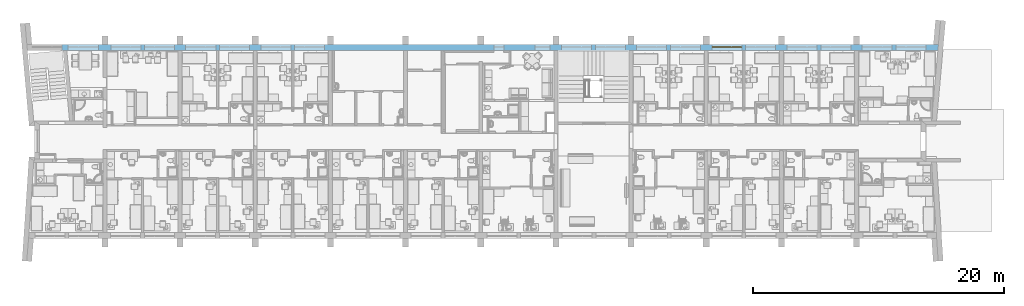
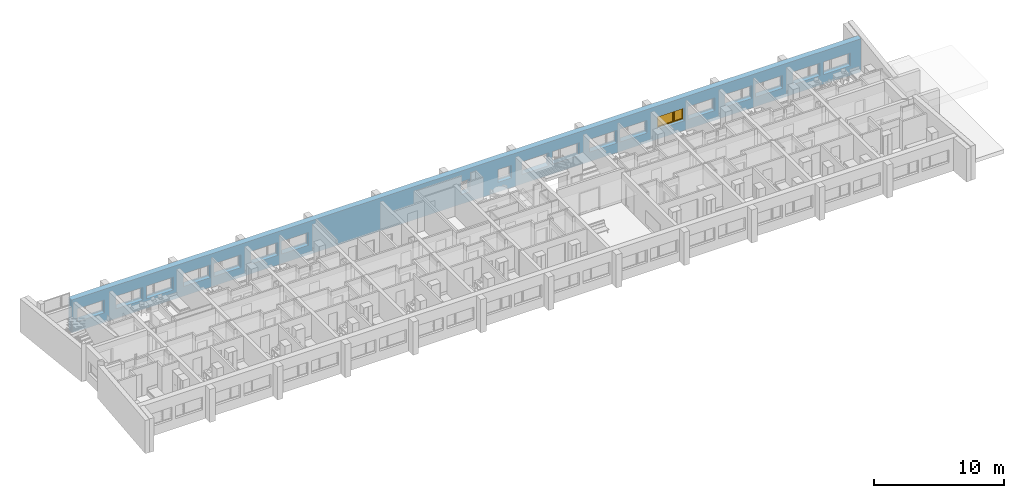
# One storey, part 28 of 172: 1 window, 19 openings, plus 1 element that does not belong to this part.
"""IFC2X3 building model written with IfcOpenShell, lengths in millimetres."""

import ifcopenshell
import ifcopenshell.guid

model = None  # the IFC model being written
_history = None  # IfcOwnerHistory: only IFC2X3 demands one
_inside = {}  # id of a spatial element -> (the spatial element, [elements in it])
_under = {}  # id of a project, library or spatial element -> (it, [spatial elements below it])
_declared = {}  # id of a project -> (the project, [libraries it declares])
_typed = {}  # id of a type object -> (the type object, [elements of that type])
_made_of = {}  # id of a material, layer set ... -> (it, [elements and type objects made of it])


def new_model(schema):
    """Start an empty IFC model of exactly this schema.

    Asked for "IFC4X3", IfcOpenShell would pick the latest addendum, in which some entities
    have other attributes; the version numbers below select the first issue.
    IFC2X3 requires an IfcOwnerHistory on every rooted entity: one is made here for all.
    """
    global model, _history
    if schema == "IFC4X3":
        model = ifcopenshell.file(schema_version=(4, 3, 0, 0))
    else:
        model = ifcopenshell.file(schema=schema)
    _inside.clear()
    _under.clear()
    _declared.clear()
    _typed.clear()
    _made_of.clear()
    _history = None
    if model.schema == "IFC2X3":
        org = make("IfcOrganization", Name="unknown")
        user = make(
            "IfcPersonAndOrganization",
            ThePerson=make("IfcPerson", FamilyName="unknown"),
            TheOrganization=org,
        )
        app = make(
            "IfcApplication",
            ApplicationDeveloper=org,
            Version="unknown",
            ApplicationFullName="unknown",
            ApplicationIdentifier="unknown",
        )
        _history = make(
            "IfcOwnerHistory",
            OwningUser=user,
            OwningApplication=app,
            ChangeAction="ADDED",
            CreationDate=0,
        )
    return model


def make(cls, **values):
    """One entity of the class cls with the attributes given. An attribute that is None is left unset."""
    return model.create_entity(
        cls, **{name: value for name, value in values.items() if value is not None}
    )


def entity(cls, *values):
    """Any entity or typed value of the class cls, its attributes in the order of the schema. None: left unset."""
    e = model.create_entity(cls)
    for i, value in enumerate(values):
        if value is not None:
            e[i] = value
    return e


def rooted(cls, **values):
    """An entity with a GlobalId (a new one), such as an element, a storey or a relation."""
    return make(cls, GlobalId=ifcopenshell.guid.new(), OwnerHistory=_history, **values)


def si_unit(unit_type, name, prefix=None):
    """IfcSIUnit, for example si_unit("LENGTHUNIT", "METRE", prefix="MILLI")."""
    return make("IfcSIUnit", UnitType=unit_type, Prefix=prefix, Name=name)


def converted_unit(unit_type, name, factor, base, dimensions=None, offset=None):
    """IfcConversionBasedUnit, such as the inch: factor (a typed value) times the base unit."""
    return make(
        "IfcConversionBasedUnit"
        if offset is None
        else "IfcConversionBasedUnitWithOffset",
        ConversionOffset=offset,
        Dimensions=None
        if dimensions is None
        else entity("IfcDimensionalExponents", *dimensions),
        UnitType=unit_type,
        Name=name,
        ConversionFactor=make(
            "IfcMeasureWithUnit", ValueComponent=factor, UnitComponent=base
        ),
    )


def money_unit(currency):
    """IfcMonetaryUnit."""
    return make("IfcMonetaryUnit", Currency=currency)


def assignment(units):
    """IfcUnitAssignment: the units of a project."""
    return None if units is None else make("IfcUnitAssignment", Units=units)


def point(xyz):
    """IfcCartesianPoint."""
    return None if xyz is None else make("IfcCartesianPoint", Coordinates=xyz)


def direction(xyz):
    """IfcDirection."""
    return None if xyz is None else make("IfcDirection", DirectionRatios=xyz)


def frame(location, z_axis=None, x_axis=None):
    """IfcAxis2Placement3D, a coordinate frame: its origin and axes. An axis left out is left unset."""
    return make(
        "IfcAxis2Placement3D",
        Location=point(location),
        Axis=direction(z_axis),
        RefDirection=direction(x_axis),
    )


def origin_with_axes():
    """The frame at (0, 0, 0) with the z axis (0, 0, 1) and the x axis (1, 0, 0) written out."""
    return frame((0.0, 0.0, 0.0), z_axis=(0.0, 0.0, 1.0), x_axis=(1.0, 0.0, 0.0))


def place(relative_to, where):
    """IfcLocalPlacement: puts the frame where relative to a parent placement (None: the world)."""
    return make(
        "IfcLocalPlacement", PlacementRelTo=relative_to, RelativePlacement=where
    )


def context(
    kind, dimensions, precision=None, world=None, true_north=None, identifier=None
):
    """IfcGeometricRepresentationContext, for example the 3D "Model" context."""
    return make(
        "IfcGeometricRepresentationContext",
        ContextIdentifier=identifier,
        ContextType=kind,
        CoordinateSpaceDimension=dimensions,
        Precision=precision,
        WorldCoordinateSystem=world,
        TrueNorth=true_north,
    )


def subcontext(parent, identifier, kind, view, scale=None):
    """IfcGeometricRepresentationSubContext, for example "Body" below "Model"."""
    return make(
        "IfcGeometricRepresentationSubContext",
        ContextIdentifier=identifier,
        ContextType=kind,
        ParentContext=parent,
        TargetScale=scale,
        TargetView=view,
    )


def project(units=None, contexts=None):
    """IfcProject with its units and contexts."""
    return rooted(
        "IfcProject",
        Name="project",
        RepresentationContexts=contexts,
        UnitsInContext=assignment(units),
    )


def spatial(cls, under=None, at=None, **own):
    """A site, building, storey or space (cls), placed at a placement, below another one or the project."""
    s = rooted(cls, ObjectPlacement=at, **own)
    if under is not None:
        _under.setdefault(under.id(), (under, []))[1].append(s)
    return s


def polyline(points):
    """IfcPolyline through the points."""
    return make("IfcPolyline", Points=[point(p) for p in points])


def outline(outer, holes=None, kind="AREA"):
    """IfcArbitraryClosedProfileDef: a profile drawn as a closed curve; with holes, ...WithVoids."""
    if holes is None:
        return make("IfcArbitraryClosedProfileDef", ProfileType=kind, OuterCurve=outer)
    return make(
        "IfcArbitraryProfileDefWithVoids",
        ProfileType=kind,
        OuterCurve=outer,
        InnerCurves=holes,
    )


def extrude(swept, where, along, depth):
    """IfcExtrudedAreaSolid: the profile swept, set in the frame where, extruded along a direction by depth."""
    return make(
        "IfcExtrudedAreaSolid",
        SweptArea=swept,
        Position=where,
        ExtrudedDirection=direction(along),
        Depth=depth,
    )


def faces_of(points, faces, orient=None, outer=None):
    """IfcFace entities. A face is a list of loops; a loop is a list of indices into points, from 0.

    orient and outer hold one flag for each loop. By default every Orientation is true, the
    first loop of a face is its IfcFaceOuterBound and the others are IfcFaceBound.
    """
    made = []
    for i, loops in enumerate(faces):
        bounds = []
        for j, loop in enumerate(loops):
            is_outer = j == 0 if outer is None else outer[i][j]
            bounds.append(
                make(
                    "IfcFaceOuterBound" if is_outer else "IfcFaceBound",
                    Bound=make("IfcPolyLoop", Polygon=[points[k] for k in loop]),
                    Orientation=True if orient is None else orient[i][j],
                )
            )
        made.append(make("IfcFace", Bounds=bounds))
    return made


def open_shell(faces, orient=None, outer=None):
    """The faces of one IfcOpenShell. surface_model builds it on its shared points."""
    return ("IfcOpenShell", faces, orient, outer)


def faceted_brep(points, faces, orient=None, outer=None, voids=None):
    """IfcFacetedBrep: a solid bounded by flat faces; with voids (closed shells), ...WithVoids."""
    shared = [point(p) for p in points]
    hull = make("IfcClosedShell", CfsFaces=faces_of(shared, faces, orient, outer))
    if voids is None:
        return make("IfcFacetedBrep", Outer=hull)
    return make(
        "IfcFacetedBrepWithVoids",
        Outer=hull,
        Voids=[
            make(cls, CfsFaces=faces_of(shared, fs, o, b)) for cls, fs, o, b in voids
        ],
    )


def surface_model(cls, points, shells):
    """IfcFaceBasedSurfaceModel or IfcShellBasedSurfaceModel (cls): surfaces that need not close."""
    shared = [point(p) for p in points]
    made = [make(c, CfsFaces=faces_of(shared, fs, o, b)) for c, fs, o, b in shells]
    if cls == "IfcFaceBasedSurfaceModel":
        return make(cls, FbsmFaces=made)
    return make(cls, SbsmBoundary=made)


def shape(context_of_items, identifier, shape_type, items):
    """IfcShapeRepresentation: the items that make up one representation, for example the "Body"."""
    return make(
        "IfcShapeRepresentation",
        ContextOfItems=context_of_items,
        RepresentationIdentifier=identifier,
        RepresentationType=shape_type,
        Items=items,
    )


def source(mapping_origin, context_of_items, identifier, shape_type, items):
    """IfcRepresentationMap: a shape defined once, which mapped items show again and again."""
    return make(
        "IfcRepresentationMap",
        MappingOrigin=mapping_origin,
        MappedRepresentation=shape(context_of_items, identifier, shape_type, items),
    )


def transform(
    local_origin,
    x_axis=None,
    y_axis=None,
    z_axis=None,
    scale=None,
    scale2=None,
    scale3=None,
    uniform=True,
):
    """IfcCartesianTransformationOperator3D, or its non-uniform kind. x_axis, y_axis, z_axis: its Axis1, 2, 3."""
    if uniform:
        return make(
            "IfcCartesianTransformationOperator3D",
            Axis1=direction(x_axis),
            Axis2=direction(y_axis),
            LocalOrigin=point(local_origin),
            Scale=scale,
            Axis3=direction(z_axis),
        )
    return make(
        "IfcCartesianTransformationOperator3DnonUniform",
        Axis1=direction(x_axis),
        Axis2=direction(y_axis),
        LocalOrigin=point(local_origin),
        Scale=scale,
        Axis3=direction(z_axis),
        Scale2=scale2,
        Scale3=scale3,
    )


def mapped(mapping_source, mapping_target):
    """IfcMappedItem: shows the shape of a source again, moved by a transform."""
    return make(
        "IfcMappedItem", MappingSource=mapping_source, MappingTarget=mapping_target
    )


def material(Name=None, Category=None):
    """IfcMaterial."""
    return make("IfcMaterial", Name=Name, Category=Category)


def material_list(materials):
    """IfcMaterialList."""
    return make("IfcMaterialList", Materials=materials)


def layer(
    of_material, thickness, ventilated=None, Name=None, Category=None, Priority=None
):
    """IfcMaterialLayer: one layer of a wall or slab, of a material (None: an air gap)."""
    return make(
        "IfcMaterialLayer",
        Material=of_material,
        LayerThickness=thickness,
        IsVentilated=ventilated,
        Name=Name,
        Category=Category,
        Priority=Priority,
    )


def layer_set(layers, Name=None):
    """IfcMaterialLayerSet."""
    return make("IfcMaterialLayerSet", MaterialLayers=layers, LayerSetName=Name)


def layer_usage(for_layer_set, set_direction, sense, offset, extent=None):
    """IfcMaterialLayerSetUsage: how a layer set lies in its element."""
    return make(
        "IfcMaterialLayerSetUsage",
        ForLayerSet=for_layer_set,
        LayerSetDirection=set_direction,
        DirectionSense=sense,
        OffsetFromReferenceLine=offset,
        ReferenceExtent=extent,
    )


def made_of(thing, what):
    """Note that an element or type object is made of a material, layer set ...; save() writes the relation."""
    if what is not None:
        _made_of.setdefault(what.id(), (what, []))[1].append(thing)
    return thing


def type_object(cls, material=None, **own):
    """A type object (cls), such as IfcWallType, which elements share."""
    return made_of(rooted(cls, **own), material)


def element(
    cls,
    number,
    at=None,
    inside=None,
    cuts=None,
    type_object=None,
    material=None,
    context=None,
    identifier="Body",
    shape_type=None,
    held_by="IfcProductDefinitionShape",
    body=None,
    shapes=None,
    **own,
):
    """One element of the class cls, such as IfcWall. Its Tag is "e" and its number.

    at: its placement. inside: the storey or other place that contains it. cuts: it is an
    opening in that element (IfcRelVoidsElement). A single representation is given by context,
    identifier, shape_type and body (its items); several are given by shapes. held_by: the class
    of the entity that holds the representations. save() writes the other relations.
    """
    e = rooted(cls, Tag="e%d" % number, ObjectPlacement=at, **own)
    if body is not None:
        shapes = [shape(context, identifier, shape_type, body)]
    if shapes is not None:
        e.Representation = make(held_by, Representations=shapes)
    if inside is not None:
        _inside.setdefault(inside.id(), (inside, []))[1].append(e)
    if cuts is not None:
        rooted(
            "IfcRelVoidsElement", RelatingBuildingElement=cuts, RelatedOpeningElement=e
        )
    if type_object is not None:
        _typed.setdefault(type_object.id(), (type_object, []))[1].append(e)
    return made_of(e, material)


def fill(opening, filler):
    """IfcRelFillsElement: the door or window that sits in an opening."""
    return rooted(
        "IfcRelFillsElement",
        RelatingOpeningElement=opening,
        RelatedBuildingElement=filler,
    )


def aggregate(whole, parts):
    """IfcRelAggregates: a whole, such as a stair, and the parts it consists of."""
    return rooted("IfcRelAggregates", RelatingObject=whole, RelatedObjects=parts)


def save(model, path):
    """Write the relations noted so far, then the file.

    IfcRelAggregates (storeys below a building ...), IfcRelContainedInSpatialStructure (elements
    in a storey), IfcRelDefinesByType, IfcRelAssociatesMaterial and IfcRelDeclares: one each for
    every whole, place, type object, material and project.
    """
    for whole, parts in _under.values():
        aggregate(whole, parts)
    for where, things in _inside.values():
        rooted(
            "IfcRelContainedInSpatialStructure",
            RelatedElements=things,
            RelatingStructure=where,
        )
    for kind, things in _typed.values():
        rooted("IfcRelDefinesByType", RelatedObjects=things, RelatingType=kind)
    for what, things in _made_of.values():
        rooted("IfcRelAssociatesMaterial", RelatedObjects=things, RelatingMaterial=what)
    for by, libraries in _declared.values():
        rooted("IfcRelDeclares", RelatingContext=by, RelatedDefinitions=libraries)
    model.write(path)


model = new_model("IFC2X3")

# Units and contexts
model_context = context("Model", 3, precision=1e-05, world=origin_with_axes(), true_north=direction((0.0, 1.0)))
body_context = subcontext(model_context, "Body", "Model", "MODEL_VIEW")
ifc_project = project(units=[si_unit("LENGTHUNIT", "METRE", prefix="MILLI"), si_unit("AREAUNIT", "SQUARE_METRE"), si_unit("VOLUMEUNIT", "CUBIC_METRE"), converted_unit("PLANEANGLEUNIT", "DEGREE", entity("IfcPlaneAngleMeasure", 0.0174532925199), si_unit("PLANEANGLEUNIT", "RADIAN"), dimensions=[0, 0, 0, 0, 0, 0, 0]), si_unit("SOLIDANGLEUNIT", "STERADIAN"), money_unit("USD"), converted_unit("TIMEUNIT", "Year", entity("IfcTimeMeasure", 31556926.0), si_unit("TIMEUNIT", "SECOND"), dimensions=[0, 0, 0, 0, 0, 0, 0]), si_unit("MASSUNIT", "GRAM"), si_unit("THERMODYNAMICTEMPERATUREUNIT", "DEGREE_CELSIUS"), si_unit("LUMINOUSINTENSITYUNIT", "LUMEN")], contexts=[model_context])

# Site, building, storey
site_placement = place(None, origin_with_axes())
site = spatial("IfcSite", under=ifc_project, at=site_placement, Name="Site", CompositionType="ELEMENT")
building_placement = place(site_placement, origin_with_axes())
building = spatial("IfcBuilding", under=site, at=building_placement, Name="Building", CompositionType="ELEMENT")
storey_placement = place(building_placement, frame((0.0, 0.0, 3200.0), z_axis=(0.0, 0.0, 1.0), x_axis=(1.0, 0.0, 0.0)))
storey = spatial("IfcBuildingStorey", under=building, at=storey_placement, Name="3KORRUS", CompositionType="ELEMENT", Elevation=3200.0)

# Wall, openings, window
ifc_material_1 = material(Name="Olemasolevad seinad tellis, uus viimistlus")
ifc_layer = layer(ifc_material_1, 500.0, ventilated="UNKNOWN")
ifc_layer_set = layer_set([ifc_layer], Name="Olemasolevad seinad tellis, uus viimistlus 500")
ifc_layer_usage = layer_usage(ifc_layer_set, "AXIS2", "POSITIVE", -100.0)
wall_type = type_object("IfcWallType", Name="Olemasolevad seinad tellis, uus viimistlus 500", PredefinedType="NOTDEFINED")
wall_placement = place(storey_placement, frame((-51569.3388124, -5039.6041088, 0.0), z_axis=(0.0, 0.0, 1.0), x_axis=(1.0, 0.0, 0.0)))
wall = element("IfcWallStandardCase", 1, at=wall_placement, inside=storey, type_object=wall_type, material=ifc_layer_usage, Name="VS1", ObjectType="VS1", context=body_context, shape_type="SweptSolid", body=[
    extrude(outline(polyline([(0.0, -100.0), (69914.7195482, -100.0), (69959.6995146, 400.0), (0.0, 400.0), (0.0, -100.0)])), origin_with_axes(), (0.0, 0.0, 1.0), 3100.0),
])
opening_1_placement = place(wall_placement, frame((34879.0421091, 0.0, 900.0), z_axis=(0.0, 0.0, 1.0), x_axis=(1.0, 0.0, 0.0)))
element("IfcOpeningElement", 2, at=opening_1_placement, cuts=wall, Name="WD - 001", context=body_context, shape_type="SweptSolid", body=[
    extrude(outline(polyline([(-400.0, 1200.0), (-400.0, 0.0), (400.0, 0.0), (400.0, 1200.0), (-400.0, 1200.0)])), frame((0.0, 200.0, 0.0), z_axis=(0.0, -1.0, 0.0), x_axis=(1.0, 0.0, 0.0)), (0.0, 0.0, 1.0), 800.0),
    extrude(outline(polyline([(-400.0, 0.0), (-400.0, -1200.0), (400.0, -1200.0), (400.0, 0.0), (-400.0, 0.0)])), frame((0.0, 200.0, 0.0), z_axis=(0.0, 1.0, 0.0), x_axis=(1.0, 0.0, 0.0)), (0.0, 0.0, 1.0), 700.0),
])
opening_2_placement = place(wall_placement, frame((38352.6323068, 0.0, 900.0), z_axis=(0.0, 0.0, 1.0), x_axis=(1.0, 0.0, 0.0)))
element("IfcOpeningElement", 3, at=opening_2_placement, cuts=wall, Name="A3", context=body_context, shape_type="SweptSolid", body=[
    extrude(outline(polyline([(-600.0, 1200.0), (-600.0, 0.0), (600.0, 0.0), (600.0, 1200.0), (-600.0, 1200.0)])), frame((0.0, 200.0, 0.0), z_axis=(0.0, -1.0, 0.0), x_axis=(1.0, 0.0, 0.0)), (0.0, 0.0, 1.0), 800.0),
    extrude(outline(polyline([(-600.0, 0.0), (-600.0, -1200.0), (600.0, -1200.0), (600.0, 0.0), (-600.0, 0.0)])), frame((0.0, 200.0, 0.0), z_axis=(0.0, 1.0, 0.0), x_axis=(1.0, 0.0, 0.0)), (0.0, 0.0, 1.0), 700.0),
])
opening_3_placement = place(wall_placement, frame((1700.0, 0.0, 900.0), z_axis=(0.0, 0.0, 1.0), x_axis=(1.0, 0.0, 0.0)))
element("IfcOpeningElement", 4, at=opening_3_placement, cuts=wall, Name="A1", context=body_context, shape_type="SweptSolid", body=[
    extrude(outline(polyline([(1200.0, 1200.0), (-1200.0, 1200.0), (-1200.0, 0.0), (1200.0, 0.0), (1200.0, 1200.0)])), frame((0.0, 200.0, 0.0), z_axis=(0.0, -1.0, 0.0), x_axis=(1.0, 0.0, 0.0)), (0.0, 0.0, 1.0), 800.0),
    extrude(outline(polyline([(1200.0, 0.0), (-1200.0, 0.0), (-1200.0, -1200.0), (1200.0, -1200.0), (1200.0, 0.0)])), frame((0.0, 200.0, 0.0), z_axis=(0.0, 1.0, 0.0), x_axis=(1.0, 0.0, 0.0)), (0.0, 0.0, 1.0), 700.0),
])
opening_4_placement = place(wall_placement, frame((7795.91085613, 0.0, 900.0), z_axis=(0.0, 0.0, 1.0), x_axis=(1.0, 0.0, 0.0)))
element("IfcOpeningElement", 5, at=opening_4_placement, cuts=wall, Name="A1", context=body_context, shape_type="SweptSolid", body=[
    extrude(outline(polyline([(1200.0, 1200.0), (-1200.0, 1200.0), (-1200.0, 0.0), (1200.0, 0.0), (1200.0, 1200.0)])), frame((0.0, 200.0, 0.0), z_axis=(0.0, -1.0, 0.0), x_axis=(1.0, 0.0, 0.0)), (0.0, 0.0, 1.0), 800.0),
    extrude(outline(polyline([(1200.0, 0.0), (-1200.0, 0.0), (-1200.0, -1200.0), (1200.0, -1200.0), (1200.0, 0.0)])), frame((0.0, 200.0, 0.0), z_axis=(0.0, 1.0, 0.0), x_axis=(1.0, 0.0, 0.0)), (0.0, 0.0, 1.0), 700.0),
])
opening_5_placement = place(wall_placement, frame((5095.91085613, 0.0, 900.0), z_axis=(0.0, 0.0, 1.0), x_axis=(1.0, 0.0, 0.0)))
element("IfcOpeningElement", 6, at=opening_5_placement, cuts=wall, Name="A2", context=body_context, shape_type="SweptSolid", body=[
    extrude(outline(polyline([(-1200.0, 1200.0), (-1200.0, 0.0), (1200.0, 0.0), (1200.0, 1200.0), (-1200.0, 1200.0)])), frame((0.0, 200.0, 0.0), z_axis=(0.0, -1.0, 0.0), x_axis=(1.0, 0.0, 0.0)), (0.0, 0.0, 1.0), 800.0),
    extrude(outline(polyline([(-1200.0, 0.0), (-1200.0, -1200.0), (1200.0, -1200.0), (1200.0, 0.0), (-1200.0, 0.0)])), frame((0.0, 200.0, 0.0), z_axis=(0.0, 1.0, 0.0), x_axis=(1.0, 0.0, 0.0)), (0.0, 0.0, 1.0), 700.0),
])
opening_6_placement = place(wall_placement, frame((13779.0421091, 0.0, 900.0), z_axis=(0.0, 0.0, 1.0), x_axis=(1.0, 0.0, 0.0)))
element("IfcOpeningElement", 7, at=opening_6_placement, cuts=wall, Name="A1", context=body_context, shape_type="SweptSolid", body=[
    extrude(outline(polyline([(1200.0, 1200.0), (-1200.0, 1200.0), (-1200.0, 0.0), (1200.0, 0.0), (1200.0, 1200.0)])), frame((0.0, 200.0, 0.0), z_axis=(0.0, -1.0, 0.0), x_axis=(1.0, 0.0, 0.0)), (0.0, 0.0, 1.0), 800.0),
    extrude(outline(polyline([(1200.0, 0.0), (-1200.0, 0.0), (-1200.0, -1200.0), (1200.0, -1200.0), (1200.0, 0.0)])), frame((0.0, 200.0, 0.0), z_axis=(0.0, 1.0, 0.0), x_axis=(1.0, 0.0, 0.0)), (0.0, 0.0, 1.0), 700.0),
])
opening_7_placement = place(wall_placement, frame((11079.0421091, 0.0, 900.0), z_axis=(0.0, 0.0, 1.0), x_axis=(1.0, 0.0, 0.0)))
element("IfcOpeningElement", 8, at=opening_7_placement, cuts=wall, Name="A2", context=body_context, shape_type="SweptSolid", body=[
    extrude(outline(polyline([(-1200.0, 1200.0), (-1200.0, 0.0), (1200.0, 0.0), (1200.0, 1200.0), (-1200.0, 1200.0)])), frame((0.0, 200.0, 0.0), z_axis=(0.0, -1.0, 0.0), x_axis=(1.0, 0.0, 0.0)), (0.0, 0.0, 1.0), 800.0),
    extrude(outline(polyline([(-1200.0, 0.0), (-1200.0, -1200.0), (1200.0, -1200.0), (1200.0, 0.0), (-1200.0, 0.0)])), frame((0.0, 200.0, 0.0), z_axis=(0.0, 1.0, 0.0), x_axis=(1.0, 0.0, 0.0)), (0.0, 0.0, 1.0), 700.0),
])
opening_8_placement = place(wall_placement, frame((43769.0421091, 0.0, 900.0), z_axis=(0.0, 0.0, 1.0), x_axis=(1.0, 0.0, 0.0)))
element("IfcOpeningElement", 9, at=opening_8_placement, cuts=wall, Name="A1", context=body_context, shape_type="SweptSolid", body=[
    extrude(outline(polyline([(1200.0, 1200.0), (-1200.0, 1200.0), (-1200.0, 0.0), (1200.0, 0.0), (1200.0, 1200.0)])), frame((0.0, 200.0, 0.0), z_axis=(0.0, -1.0, 0.0), x_axis=(1.0, 0.0, 0.0)), (0.0, 0.0, 1.0), 800.0),
    extrude(outline(polyline([(1200.0, 0.0), (-1200.0, 0.0), (-1200.0, -1200.0), (1200.0, -1200.0), (1200.0, 0.0)])), frame((0.0, 200.0, 0.0), z_axis=(0.0, 1.0, 0.0), x_axis=(1.0, 0.0, 0.0)), (0.0, 0.0, 1.0), 700.0),
])
opening_9_placement = place(wall_placement, frame((41069.0421091, 0.0, 900.0), z_axis=(0.0, 0.0, 1.0), x_axis=(1.0, 0.0, 0.0)))
element("IfcOpeningElement", 10, at=opening_9_placement, cuts=wall, Name="A2", context=body_context, shape_type="SweptSolid", body=[
    extrude(outline(polyline([(-1200.0, 1200.0), (-1200.0, 0.0), (1200.0, 0.0), (1200.0, 1200.0), (-1200.0, 1200.0)])), frame((0.0, 200.0, 0.0), z_axis=(0.0, -1.0, 0.0), x_axis=(1.0, 0.0, 0.0)), (0.0, 0.0, 1.0), 800.0),
    extrude(outline(polyline([(-1200.0, 0.0), (-1200.0, -1200.0), (1200.0, -1200.0), (1200.0, 0.0), (-1200.0, 0.0)])), frame((0.0, 200.0, 0.0), z_axis=(0.0, 1.0, 0.0), x_axis=(1.0, 0.0, 0.0)), (0.0, 0.0, 1.0), 700.0),
])
opening_10_placement = place(wall_placement, frame((49769.0421091, 0.0, 900.0), z_axis=(0.0, 0.0, 1.0), x_axis=(1.0, 0.0, 0.0)))
element("IfcOpeningElement", 11, at=opening_10_placement, cuts=wall, Name="A1", context=body_context, shape_type="SweptSolid", body=[
    extrude(outline(polyline([(1200.0, 1200.0), (-1200.0, 1200.0), (-1200.0, 0.0), (1200.0, 0.0), (1200.0, 1200.0)])), frame((0.0, 200.0, 0.0), z_axis=(0.0, -1.0, 0.0), x_axis=(1.0, 0.0, 0.0)), (0.0, 0.0, 1.0), 800.0),
    extrude(outline(polyline([(1200.0, 0.0), (-1200.0, 0.0), (-1200.0, -1200.0), (1200.0, -1200.0), (1200.0, 0.0)])), frame((0.0, 200.0, 0.0), z_axis=(0.0, 1.0, 0.0), x_axis=(1.0, 0.0, 0.0)), (0.0, 0.0, 1.0), 700.0),
])
opening_11_placement = place(wall_placement, frame((47069.0421091, 0.0, 900.0), z_axis=(0.0, 0.0, 1.0), x_axis=(1.0, 0.0, 0.0)))
element("IfcOpeningElement", 12, at=opening_11_placement, cuts=wall, Name="A2", context=body_context, shape_type="SweptSolid", body=[
    extrude(outline(polyline([(-1200.0, 1200.0), (-1200.0, 0.0), (1200.0, 0.0), (1200.0, 1200.0), (-1200.0, 1200.0)])), frame((0.0, 200.0, 0.0), z_axis=(0.0, -1.0, 0.0), x_axis=(1.0, 0.0, 0.0)), (0.0, 0.0, 1.0), 800.0),
    extrude(outline(polyline([(-1200.0, 0.0), (-1200.0, -1200.0), (1200.0, -1200.0), (1200.0, 0.0), (-1200.0, 0.0)])), frame((0.0, 200.0, 0.0), z_axis=(0.0, 1.0, 0.0), x_axis=(1.0, 0.0, 0.0)), (0.0, 0.0, 1.0), 700.0),
])
opening_12_placement = place(wall_placement, frame((55769.0421091, 0.0, 900.0), z_axis=(0.0, 0.0, 1.0), x_axis=(1.0, 0.0, 0.0)))
element("IfcOpeningElement", 13, at=opening_12_placement, cuts=wall, Name="A1", context=body_context, shape_type="SweptSolid", body=[
    extrude(outline(polyline([(1200.0, 1200.0), (-1200.0, 1200.0), (-1200.0, 0.0), (1200.0, 0.0), (1200.0, 1200.0)])), frame((0.0, 200.0, 0.0), z_axis=(0.0, -1.0, 0.0), x_axis=(1.0, 0.0, 0.0)), (0.0, 0.0, 1.0), 800.0),
    extrude(outline(polyline([(1200.0, 0.0), (-1200.0, 0.0), (-1200.0, -1200.0), (1200.0, -1200.0), (1200.0, 0.0)])), frame((0.0, 200.0, 0.0), z_axis=(0.0, 1.0, 0.0), x_axis=(1.0, 0.0, 0.0)), (0.0, 0.0, 1.0), 700.0),
])
opening_13_placement = place(wall_placement, frame((53069.0421091, 0.0, 900.0), z_axis=(0.0, 0.0, 1.0), x_axis=(1.0, 0.0, 0.0)))
opening_13 = element("IfcOpeningElement", 14, at=opening_13_placement, cuts=wall, Name="A2", context=body_context, shape_type="SweptSolid", body=[
    extrude(outline(polyline([(-1200.0, 1200.0), (-1200.0, 0.0), (1200.0, 0.0), (1200.0, 1200.0), (-1200.0, 1200.0)])), frame((0.0, 200.0, 0.0), z_axis=(0.0, -1.0, 0.0), x_axis=(1.0, 0.0, 0.0)), (0.0, 0.0, 1.0), 800.0),
    extrude(outline(polyline([(-1200.0, 0.0), (-1200.0, -1200.0), (1200.0, -1200.0), (1200.0, 0.0), (-1200.0, 0.0)])), frame((0.0, 200.0, 0.0), z_axis=(0.0, 1.0, 0.0), x_axis=(1.0, 0.0, 0.0)), (0.0, 0.0, 1.0), 700.0),
])
opening_14_placement = place(wall_placement, frame((61769.0421091, 0.0, 900.0), z_axis=(0.0, 0.0, 1.0), x_axis=(1.0, 0.0, 0.0)))
element("IfcOpeningElement", 15, at=opening_14_placement, cuts=wall, Name="A1", context=body_context, shape_type="SweptSolid", body=[
    extrude(outline(polyline([(1200.0, 1200.0), (-1200.0, 1200.0), (-1200.0, 0.0), (1200.0, 0.0), (1200.0, 1200.0)])), frame((0.0, 200.0, 0.0), z_axis=(0.0, -1.0, 0.0), x_axis=(1.0, 0.0, 0.0)), (0.0, 0.0, 1.0), 800.0),
    extrude(outline(polyline([(1200.0, 0.0), (-1200.0, 0.0), (-1200.0, -1200.0), (1200.0, -1200.0), (1200.0, 0.0)])), frame((0.0, 200.0, 0.0), z_axis=(0.0, 1.0, 0.0), x_axis=(1.0, 0.0, 0.0)), (0.0, 0.0, 1.0), 700.0),
])
opening_15_placement = place(wall_placement, frame((59069.0421091, 0.0, 900.0), z_axis=(0.0, 0.0, 1.0), x_axis=(1.0, 0.0, 0.0)))
element("IfcOpeningElement", 16, at=opening_15_placement, cuts=wall, Name="A2", context=body_context, shape_type="SweptSolid", body=[
    extrude(outline(polyline([(-1200.0, 1200.0), (-1200.0, 0.0), (1200.0, 0.0), (1200.0, 1200.0), (-1200.0, 1200.0)])), frame((0.0, 200.0, 0.0), z_axis=(0.0, -1.0, 0.0), x_axis=(1.0, 0.0, 0.0)), (0.0, 0.0, 1.0), 800.0),
    extrude(outline(polyline([(-1200.0, 0.0), (-1200.0, -1200.0), (1200.0, -1200.0), (1200.0, 0.0), (-1200.0, 0.0)])), frame((0.0, 200.0, 0.0), z_axis=(0.0, 1.0, 0.0), x_axis=(1.0, 0.0, 0.0)), (0.0, 0.0, 1.0), 700.0),
])
opening_16_placement = place(wall_placement, frame((67773.3244043, 0.0, 900.0), z_axis=(0.0, 0.0, 1.0), x_axis=(1.0, 0.0, 0.0)))
element("IfcOpeningElement", 17, at=opening_16_placement, cuts=wall, Name="A1", context=body_context, shape_type="SweptSolid", body=[
    extrude(outline(polyline([(1200.0, 1200.0), (-1200.0, 1200.0), (-1200.0, 0.0), (1200.0, 0.0), (1200.0, 1200.0)])), frame((0.0, 200.0, 0.0), z_axis=(0.0, -1.0, 0.0), x_axis=(1.0, 0.0, 0.0)), (0.0, 0.0, 1.0), 800.0),
    extrude(outline(polyline([(1200.0, 0.0), (-1200.0, 0.0), (-1200.0, -1200.0), (1200.0, -1200.0), (1200.0, 0.0)])), frame((0.0, 200.0, 0.0), z_axis=(0.0, 1.0, 0.0), x_axis=(1.0, 0.0, 0.0)), (0.0, 0.0, 1.0), 700.0),
])
opening_17_placement = place(wall_placement, frame((65073.3244043, 0.0, 900.0), z_axis=(0.0, 0.0, 1.0), x_axis=(1.0, 0.0, 0.0)))
element("IfcOpeningElement", 18, at=opening_17_placement, cuts=wall, Name="A2", context=body_context, shape_type="SweptSolid", body=[
    extrude(outline(polyline([(-1200.0, 1200.0), (-1200.0, 0.0), (1200.0, 0.0), (1200.0, 1200.0), (-1200.0, 1200.0)])), frame((0.0, 200.0, 0.0), z_axis=(0.0, -1.0, 0.0), x_axis=(1.0, 0.0, 0.0)), (0.0, 0.0, 1.0), 800.0),
    extrude(outline(polyline([(-1200.0, 0.0), (-1200.0, -1200.0), (1200.0, -1200.0), (1200.0, 0.0), (-1200.0, 0.0)])), frame((0.0, 200.0, 0.0), z_axis=(0.0, 1.0, 0.0), x_axis=(1.0, 0.0, 0.0)), (0.0, 0.0, 1.0), 700.0),
])
opening_18_placement = place(wall_placement, frame((19767.4765851, 0.0, 900.0), z_axis=(0.0, 0.0, 1.0), x_axis=(1.0, 0.0, 0.0)))
element("IfcOpeningElement", 19, at=opening_18_placement, cuts=wall, Name="A1", context=body_context, shape_type="SweptSolid", body=[
    extrude(outline(polyline([(1200.0, 1200.0), (-1200.0, 1200.0), (-1200.0, 0.0), (1200.0, 0.0), (1200.0, 1200.0)])), frame((0.0, 200.0, 0.0), z_axis=(0.0, -1.0, 0.0), x_axis=(1.0, 0.0, 0.0)), (0.0, 0.0, 1.0), 800.0),
    extrude(outline(polyline([(1200.0, 0.0), (-1200.0, 0.0), (-1200.0, -1200.0), (1200.0, -1200.0), (1200.0, 0.0)])), frame((0.0, 200.0, 0.0), z_axis=(0.0, 1.0, 0.0), x_axis=(1.0, 0.0, 0.0)), (0.0, 0.0, 1.0), 700.0),
])
opening_19_placement = place(wall_placement, frame((17067.4765851, 0.0, 900.0), z_axis=(0.0, 0.0, 1.0), x_axis=(1.0, 0.0, 0.0)))
element("IfcOpeningElement", 20, at=opening_19_placement, cuts=wall, Name="A2", context=body_context, shape_type="SweptSolid", body=[
    extrude(outline(polyline([(-1200.0, 1200.0), (-1200.0, 0.0), (1200.0, 0.0), (1200.0, 1200.0), (-1200.0, 1200.0)])), frame((0.0, 200.0, 0.0), z_axis=(0.0, -1.0, 0.0), x_axis=(1.0, 0.0, 0.0)), (0.0, 0.0, 1.0), 800.0),
    extrude(outline(polyline([(-1200.0, 0.0), (-1200.0, -1200.0), (1200.0, -1200.0), (1200.0, 0.0), (-1200.0, 0.0)])), frame((0.0, 200.0, 0.0), z_axis=(0.0, 1.0, 0.0), x_axis=(1.0, 0.0, 0.0)), (0.0, 0.0, 1.0), 700.0),
])
ifc_material_2 = material(Name="Background")
ifc_material_list = material_list([ifc_material_2])
window_style = type_object("IfcWindowStyle", Name="Double Window 19", ConstructionType="NOTDEFINED", OperationType="DOUBLE_PANEL_VERTICAL", ParameterTakesPrecedence=False, Sizeable=False)
shared_shape = source(origin_with_axes(), body_context, "Body", "SurfaceModel", [
    faceted_brep([(-1175.0, -200.0, 1150.0), (-1200.0, -200.0, 1150.0), (-1200.0, -250.0, 1150.0), (-1150.0, -250.0, 1150.0), (-1150.0, -225.0, 1150.0), (-1175.0, -225.0, 1150.0), (-1175.0, -200.0, 50.0), (-1200.0, -200.0, 50.0), (-1200.0, -250.0, 50.0), (-1150.0, -250.0, 50.0), (-1150.0, -225.0, 50.0), (-1175.0, -225.0, 50.0)], [[[0, 1, 2, 3, 4, 5]], [[6, 7, 1, 0]], [[1, 7, 8, 2]], [[2, 8, 9, 3]], [[4, 3, 9, 10]], [[10, 11, 5, 4]], [[5, 11, 6, 0]], [[11, 10, 9, 8, 7, 6]]]),
    faceted_brep([(1150.0, -225.0, 1150.0), (1150.0, -250.0, 1150.0), (1200.0, -250.0, 1150.0), (1200.0, -200.0, 1150.0), (1175.0, -200.0, 1150.0), (1175.0, -225.0, 1150.0), (1150.0, -225.0, 50.0), (1150.0, -250.0, 50.0), (1200.0, -250.0, 50.0), (1200.0, -200.0, 50.0), (1175.0, -200.0, 50.0), (1175.0, -225.0, 50.0)], [[[0, 1, 2, 3, 4, 5]], [[6, 7, 1, 0]], [[8, 2, 1, 7]], [[9, 3, 2, 8]], [[4, 3, 9, 10]], [[10, 11, 5, 4]], [[5, 11, 6, 0]], [[11, 10, 9, 8, 7, 6]]]),
    faceted_brep([(350.0, -225.0, 1150.0), (350.0, -250.0, 1150.0), (450.0, -250.0, 1150.0), (450.0, -225.0, 1150.0), (425.0, -225.0, 1150.0), (425.0, -200.0, 1150.0), (375.0, -200.0, 1150.0), (375.0, -225.0, 1150.0), (350.0, -225.0, 50.0), (350.0, -250.0, 50.0), (450.0, -250.0, 50.0), (450.0, -225.0, 50.0), (425.0, -225.0, 50.0), (425.0, -200.0, 50.0), (375.0, -200.0, 50.0), (375.0, -225.0, 50.0)], [[[0, 1, 2, 3, 4, 5, 6, 7]], [[8, 9, 1, 0]], [[10, 2, 1, 9]], [[3, 2, 10, 11]], [[11, 12, 4, 3]], [[4, 12, 13, 5]], [[6, 5, 13, 14]], [[14, 15, 7, 6]], [[7, 15, 8, 0]], [[15, 14, 13, 12, 11, 10, 9, 8]]]),
    faceted_brep([(350.0, -225.0, 50.0), (350.0, -250.0, 50.0), (450.0, -250.0, 50.0), (450.0, -225.0, 50.0), (425.0, -225.0, 50.0), (425.0, -200.0, 50.0), (375.0, -200.0, 50.0), (375.0, -225.0, 50.0), (-1150.0, -225.0, 50.0), (-1150.0, -250.0, 50.0), (-1200.0, -250.0, 50.0), (-1200.0, -250.0, 0.0), (1200.0, -250.0, 0.0), (1200.0, -250.0, 50.0), (1150.0, -250.0, 50.0), (1150.0, -225.0, 50.0), (1175.0, -225.0, 50.0), (1175.0, -225.0, 25.0), (425.0, -225.0, 25.0), (425.0, -200.0, 25.0), (-1175.0, -200.0, 25.0), (375.0, -200.0, 25.0), (1175.0, -200.0, 25.0), (1175.0, -200.0, 50.0), (1200.0, -200.0, 50.0), (1200.0, -200.0, 0.0), (-1200.0, -200.0, 0.0), (-1200.0, -200.0, 50.0), (-1175.0, -200.0, 50.0), (375.0, -225.0, 25.0), (-1175.0, -225.0, 25.0), (-1175.0, -225.0, 50.0)], [[[0, 1, 2, 3, 4, 5, 6, 7]], [[8, 9, 1, 0]], [[10, 11, 12, 13, 14, 2, 1, 9]], [[3, 2, 14, 15]], [[16, 17, 18, 4, 3, 15]], [[4, 18, 19, 5]], [[20, 21, 6, 5, 19, 22, 23, 24, 25, 26, 27, 28]], [[21, 29, 7, 6]], [[7, 29, 30, 31, 8, 0]], [[31, 28, 27, 10, 9, 8]], [[27, 26, 11, 10]], [[26, 25, 12, 11]], [[25, 24, 13, 12]], [[15, 14, 13, 24, 23, 16]], [[22, 17, 16, 23]], [[19, 18, 17, 22]], [[20, 30, 29, 21]], [[31, 30, 20, 28]]]),
    faceted_brep([(-1175.0, -200.0, 1150.0), (-1200.0, -200.0, 1150.0), (-1200.0, -200.0, 1200.0), (1200.0, -200.0, 1200.0), (1200.0, -200.0, 1150.0), (1175.0, -200.0, 1150.0), (1175.0, -200.0, 1175.0), (425.0, -200.0, 1175.0), (425.0, -200.0, 1150.0), (375.0, -200.0, 1150.0), (375.0, -200.0, 1175.0), (-1175.0, -200.0, 1175.0), (-1175.0, -225.0, 1150.0), (-1150.0, -225.0, 1150.0), (-1150.0, -250.0, 1150.0), (-1200.0, -250.0, 1150.0), (-1200.0, -250.0, 1200.0), (1200.0, -250.0, 1200.0), (1200.0, -250.0, 1150.0), (1175.0, -225.0, 1150.0), (1150.0, -250.0, 1150.0), (1150.0, -225.0, 1150.0), (1175.0, -225.0, 1175.0), (425.0, -225.0, 1175.0), (425.0, -225.0, 1150.0), (375.0, -225.0, 1150.0), (450.0, -225.0, 1150.0), (450.0, -250.0, 1150.0), (350.0, -250.0, 1150.0), (350.0, -225.0, 1150.0), (375.0, -225.0, 1175.0), (-1175.0, -225.0, 1175.0)], [[[0, 1, 2, 3, 4, 5, 6, 7, 8, 9, 10, 11]], [[12, 13, 14, 15, 1, 0]], [[2, 1, 15, 16]], [[3, 2, 16, 17]], [[4, 3, 17, 18]], [[19, 5, 4, 18, 20, 21]], [[5, 19, 22, 6]], [[6, 22, 23, 7]], [[7, 23, 24, 8]], [[25, 9, 8, 24, 26, 27, 28, 29]], [[9, 25, 30, 10]], [[10, 30, 31, 11]], [[11, 31, 12, 0]], [[29, 13, 12, 31, 30, 25]], [[29, 28, 14, 13]], [[27, 20, 18, 17, 16, 15, 14, 28]], [[21, 20, 27, 26]], [[21, 26, 24, 23, 22, 19]]]),
    faceted_brep([(-1125.0, -225.0, 1125.0), (-1125.0, -175.0, 1125.0), (-1175.0, -175.0, 1125.0), (-1175.0, -225.0, 1125.0), (-1125.0, -225.0, 75.0), (-1125.0, -175.0, 75.0), (-1175.0, -175.0, 75.0), (-1175.0, -225.0, 75.0)], [[[0, 1, 2, 3]], [[4, 5, 1, 0]], [[1, 5, 6, 2]], [[3, 2, 6, 7]], [[0, 3, 7, 4]], [[7, 6, 5, 4]]]),
    faceted_brep([(325.0, -225.0, 75.0), (325.0, -175.0, 75.0), (375.0, -175.0, 75.0), (375.0, -225.0, 75.0), (325.0, -225.0, 1125.0), (325.0, -175.0, 1125.0), (375.0, -175.0, 1125.0), (375.0, -225.0, 1125.0)], [[[0, 1, 2, 3]], [[4, 5, 1, 0]], [[1, 5, 6, 2]], [[3, 2, 6, 7]], [[0, 3, 7, 4]], [[7, 6, 5, 4]]]),
    faceted_brep([(375.0, -225.0, 25.0), (375.0, -175.0, 25.0), (375.0, -175.0, 75.0), (375.0, -225.0, 75.0), (-1175.0, -225.0, 25.0), (-1175.0, -175.0, 25.0), (-1175.0, -175.0, 75.0), (-1125.0, -175.0, 75.0), (325.0, -175.0, 75.0), (325.0, -225.0, 75.0), (-1125.0, -225.0, 75.0), (-1175.0, -225.0, 75.0)], [[[0, 1, 2, 3]], [[4, 5, 1, 0]], [[1, 5, 6, 7, 8, 2]], [[3, 2, 8, 9]], [[0, 3, 9, 10, 11, 4]], [[11, 6, 5, 4]], [[10, 7, 6, 11]], [[9, 8, 7, 10]]]),
    faceted_brep([(-1175.0, -225.0, 1175.0), (-1175.0, -175.0, 1175.0), (-1175.0, -175.0, 1125.0), (-1175.0, -225.0, 1125.0), (375.0, -225.0, 1175.0), (375.0, -175.0, 1175.0), (375.0, -175.0, 1125.0), (325.0, -175.0, 1125.0), (-1125.0, -175.0, 1125.0), (-1125.0, -225.0, 1125.0), (325.0, -225.0, 1125.0), (375.0, -225.0, 1125.0)], [[[0, 1, 2, 3]], [[4, 5, 1, 0]], [[1, 5, 6, 7, 8, 2]], [[3, 2, 8, 9]], [[0, 3, 9, 10, 11, 4]], [[11, 6, 5, 4]], [[10, 7, 6, 11]], [[9, 8, 7, 10]]]),
    surface_model("IfcShellBasedSurfaceModel", [(-1125.0, -210.0, 75.0), (325.0, -210.0, 75.0), (325.0, -210.0, 1125.0), (-1125.0, -210.0, 1125.0)], [open_shell([[[0, 1, 2, 3]]])]),
    surface_model("IfcShellBasedSurfaceModel", [(-1125.0, -190.0, 75.0), (-1125.0, -190.0, 1125.0), (325.0, -190.0, 1125.0), (325.0, -190.0, 75.0)], [open_shell([[[0, 1, 2, 3]]])]),
    faceted_brep([(475.0, -225.0, 1125.0), (475.0, -175.0, 1125.0), (425.0, -175.0, 1125.0), (425.0, -225.0, 1125.0), (475.0, -225.0, 75.0), (475.0, -175.0, 75.0), (425.0, -175.0, 75.0), (425.0, -225.0, 75.0)], [[[0, 1, 2, 3]], [[4, 5, 1, 0]], [[1, 5, 6, 2]], [[3, 2, 6, 7]], [[0, 3, 7, 4]], [[7, 6, 5, 4]]]),
    faceted_brep([(1125.0, -225.0, 75.0), (1125.0, -175.0, 75.0), (1175.0, -175.0, 75.0), (1175.0, -225.0, 75.0), (1125.0, -225.0, 1125.0), (1125.0, -175.0, 1125.0), (1175.0, -175.0, 1125.0), (1175.0, -225.0, 1125.0)], [[[0, 1, 2, 3]], [[4, 5, 1, 0]], [[1, 5, 6, 2]], [[3, 2, 6, 7]], [[0, 3, 7, 4]], [[7, 6, 5, 4]]]),
    faceted_brep([(1175.0, -225.0, 25.0), (1175.0, -175.0, 25.0), (1175.0, -175.0, 75.0), (1175.0, -225.0, 75.0), (425.0, -225.0, 25.0), (425.0, -175.0, 25.0), (425.0, -175.0, 75.0), (475.0, -175.0, 75.0), (1125.0, -175.0, 75.0), (1125.0, -225.0, 75.0), (475.0, -225.0, 75.0), (425.0, -225.0, 75.0)], [[[0, 1, 2, 3]], [[4, 5, 1, 0]], [[1, 5, 6, 7, 8, 2]], [[3, 2, 8, 9]], [[0, 3, 9, 10, 11, 4]], [[11, 6, 5, 4]], [[10, 7, 6, 11]], [[9, 8, 7, 10]]]),
    faceted_brep([(425.0, -225.0, 1175.0), (425.0, -175.0, 1175.0), (425.0, -175.0, 1125.0), (425.0, -225.0, 1125.0), (1175.0, -225.0, 1175.0), (1175.0, -175.0, 1175.0), (1175.0, -175.0, 1125.0), (1125.0, -175.0, 1125.0), (475.0, -175.0, 1125.0), (475.0, -225.0, 1125.0), (1125.0, -225.0, 1125.0), (1175.0, -225.0, 1125.0)], [[[0, 1, 2, 3]], [[4, 5, 1, 0]], [[1, 5, 6, 7, 8, 2]], [[3, 2, 8, 9]], [[0, 3, 9, 10, 11, 4]], [[11, 6, 5, 4]], [[10, 7, 6, 11]], [[9, 8, 7, 10]]]),
    surface_model("IfcShellBasedSurfaceModel", [(475.0, -210.0, 75.0), (1125.0, -210.0, 75.0), (1125.0, -210.0, 1125.0), (475.0, -210.0, 1125.0)], [open_shell([[[0, 1, 2, 3]]])]),
    surface_model("IfcShellBasedSurfaceModel", [(475.0, -190.0, 75.0), (475.0, -190.0, 1125.0), (1125.0, -190.0, 1125.0), (1125.0, -190.0, 75.0)], [open_shell([[[0, 1, 2, 3]]])]),
])
window_placement = place(opening_13_placement, frame((-1200.0, 0.0, 0.0), z_axis=(0.0, 0.0, 1.0), x_axis=(1.0, 0.0, 0.0)))
window = element("IfcWindow", 21, at=window_placement, inside=storey, type_object=window_style, material=ifc_material_list, Name="A2", ObjectType="A2", OverallHeight=1200.0, OverallWidth=2400.0, context=body_context, shape_type="MappedRepresentation", body=[
    mapped(shared_shape, transform((1200.0, 400.0, 0.0))),
])
fill(opening_13, window)

save(model, "model.ifc")
